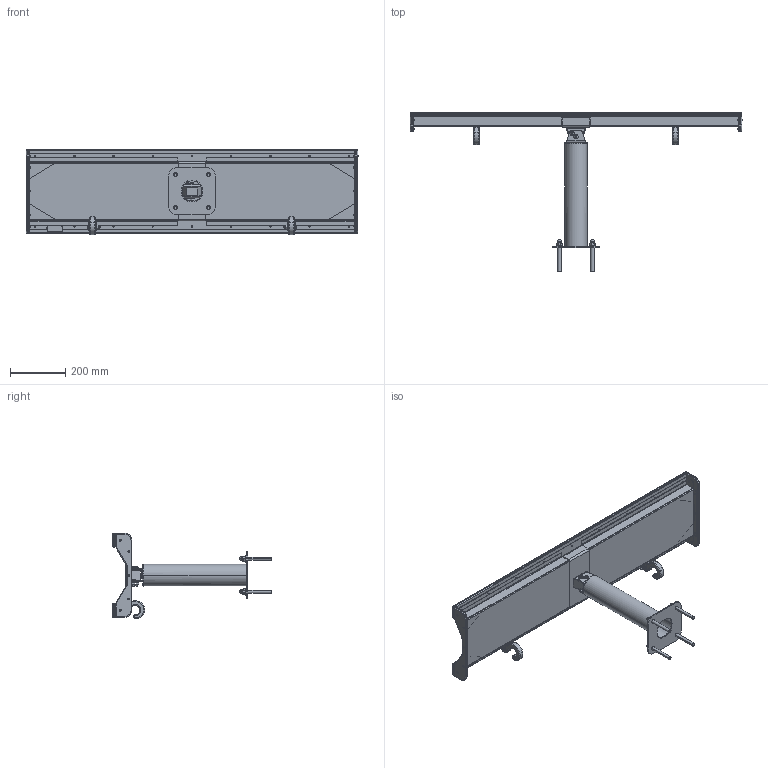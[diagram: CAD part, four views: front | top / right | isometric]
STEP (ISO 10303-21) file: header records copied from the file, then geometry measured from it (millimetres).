
FILE_DESCRIPTION (( 'STEP AP214' ), '1' );
FILE_NAME ('570.203.020.011 - Split Channel FA.STEP', '2021-03-25T11:12:21', ( '' ), ( '' ), 'SwSTEP 2.0', 'SolidWorks 2018', '' );
FILE_SCHEMA (( 'AUTOMOTIVE_DESIGN' ));
Length unit declared in the file: millimetre
Products named in the file (1): 570.203.020.011 - Split Channel FA
Bounding box: 1207.2 x 579.81 x 310.61 mm (x, y, z)
Surface area: 1580785.3 mm2 (no closed solid volume)
Topology: 0 solids, 143 shells, 882 faces, 2696 edges, 1839 vertices
Faces by surface type: plane 290, cylinder 262, bspline 137, torus 82, sphere 56, cone 55
Entity records: 41724 total; most frequent: CARTESIAN_POINT 9109, DIRECTION 5116, ORIENTED_EDGE 4016, EDGE_CURVE 2642, AXIS2_PLACEMENT_3D 2064, VERTEX_POINT 1835, CIRCLE 1318, EDGE_LOOP 992
